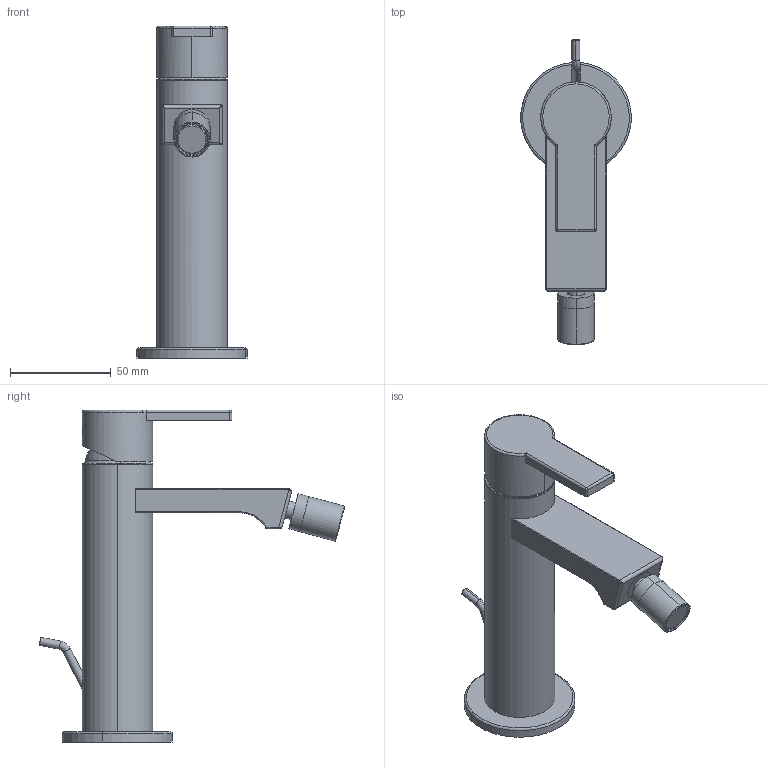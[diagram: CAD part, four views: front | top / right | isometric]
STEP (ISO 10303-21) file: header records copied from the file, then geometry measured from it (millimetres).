
FILE_DESCRIPTION (( 'STEP AP203' ), '1' );
FILE_NAME ('IKO14S.STEP', '2019-05-15T15:21:28', ( '' ), ( '' ), 'SwSTEP 2.0', 'SolidWorks 2014', '' );
FILE_SCHEMA (( 'CONFIG_CONTROL_DESIGN' ));
Length unit declared in the file: millimetre
Products named in the file (16): ASTINA PER SALTARELLO; SNODMIX003; IKO14S; EU0824_ZA; EU1873_0; TAPPHITO01; OR272ACS; EU1864_0; GAL575135; EU0360_1; EU1861_0; EU1863_0; OR607178ACS; C10.00.0029; GRANCO M5x6 ACCIAIO; AERA161001
Assembly tree (15 placements, depth 2):
  IKO14S
    EU1873_0
    EU1864_0
    GAL575135
    EU1861_0
    EU0824_ZA
    EU1863_0
    OR272ACS
    C10.00.0029
    EU0360_1
    GRANCO M5x6 ACCIAIO
    TAPPHITO01
    OR607178ACS
    SNODMIX003
    AERA161001
    ASTINA PER SALTARELLO
Bounding box: 54.83 x 151.91 x 165.1 mm (x, y, z)
Volume: 122485.4 mm3; surface area: 71495.5 mm2
Topology: 18 solids, 18 shells, 681 faces, 1594 edges, 993 vertices
Faces by surface type: plane 254, cylinder 247, cone 76, torus 52, bspline 43, sphere 9
Entity records: 22962 total; most frequent: CARTESIAN_POINT 5556, DIRECTION 3492, ORIENTED_EDGE 3148, EDGE_CURVE 1574, AXIS2_PLACEMENT_3D 1409, VERTEX_POINT 991, EDGE_LOOP 775, CIRCLE 753
